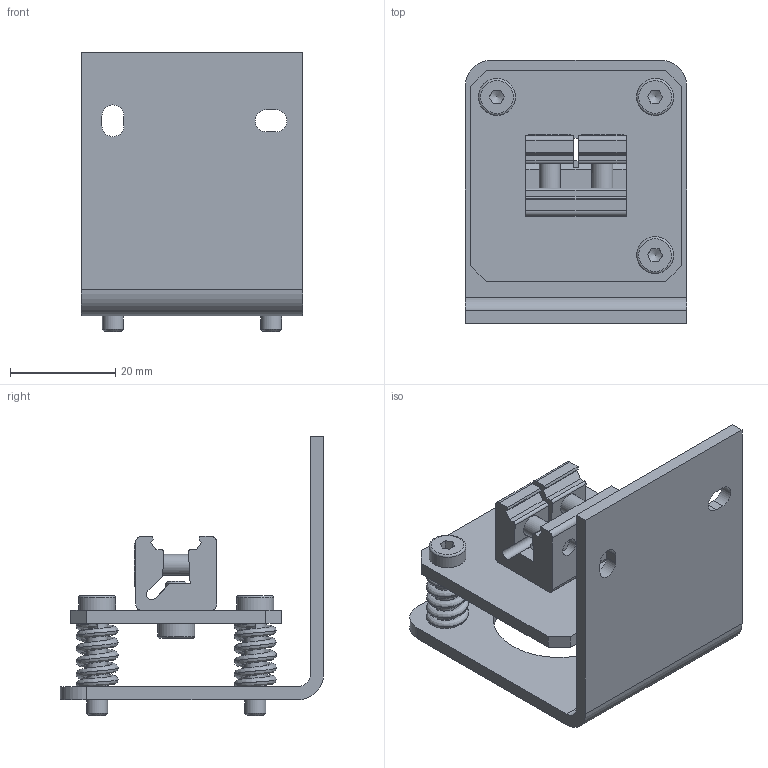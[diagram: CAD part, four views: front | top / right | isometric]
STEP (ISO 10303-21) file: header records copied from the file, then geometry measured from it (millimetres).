
FILE_DESCRIPTION(/* description */ (''),/* implementation_level */ '2;1');
FILE_NAME(/* name */ 'C:\#Vault-WorkDir\Konstruktions-Dokumente\Projekte\F55\Zubehör\153-01126_MA F55.stp',/* time_stamp */ '2018-02-27T09:37:48+01:00',/* author */ ('SensoPart'),/* organization */ ('SensoPart'),/* preprocessor_version */ 'ST-DEVELOPER v16.1',/* originating_system */ 'Autodesk Inventor 2016',/* authorisation */ '');
FILE_SCHEMA (('AUTOMOTIVE_DESIGN { 1 0 10303 214 3 1 1 }'));
Length unit declared in the file: millimetre
Products named in the file (1): WI-ENG-0001965-vereinfacht
Bounding box: 42 x 50 x 53 mm (x, y, z)
Volume: 16485.8 mm3; surface area: 16205.9 mm2
Topology: 1 solids, 21 shells, 215 faces, 559 edges, 386 vertices
Faces by surface type: plane 133, cylinder 50, cone 14, torus 12, bspline 6
Full cylindrical faces by diameter (mm): 3.422 x2, 4 x12, 4.3 x6, 4.5 x3, 7 x5, 8 x2, 25 x1
Entity records: 22198 total; most frequent: CARTESIAN_POINT 17111, DIRECTION 952, ORIENTED_EDGE 892, EDGE_CURVE 473, VERTEX_POINT 357, AXIS2_PLACEMENT_3D 335, EDGE_LOOP 312, LINE 282
